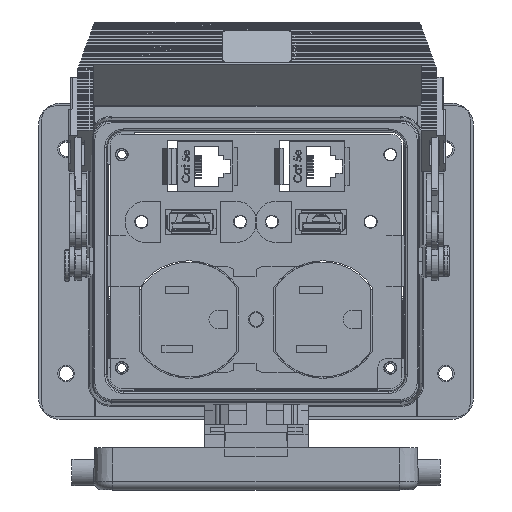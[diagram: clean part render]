
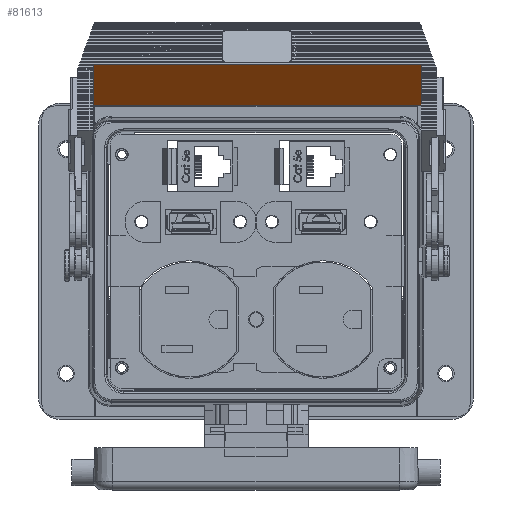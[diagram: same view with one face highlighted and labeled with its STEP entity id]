
A CAD part, top view. The second image highlights one B-rep face of the part: STEP entity #81613.
In plain terms, the highlighted planar face has unit normal (0, -0.699, 0.716).
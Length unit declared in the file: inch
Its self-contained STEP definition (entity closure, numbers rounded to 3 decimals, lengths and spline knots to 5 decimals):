
#8855 = EDGE_CURVE ( 'NONE', #8856, #8857, #53499, .T. ) ;
#8856 = VERTEX_POINT ( 'NONE', #53495 ) ;
#8857 = VERTEX_POINT ( 'NONE', #53494 ) ;
#53494 = CARTESIAN_POINT ( 'NONE',  ( -1.857, 1.77886, 0.36818 ) ) ;
#53495 = CARTESIAN_POINT ( 'NONE',  ( -1.857, 2.24079, 0.81917 ) ) ;
#53496 = DIRECTION ( 'NONE',  ( 0., -0.716, -0.699 ) ) ;
#53497 = VECTOR ( 'NONE', #53496, 39.37008 ) ;
#53498 = CARTESIAN_POINT ( 'NONE',  ( -1.857, 2.38706, 0.96198 ) ) ;
#53499 = LINE ( 'NONE', #53498, #53497 ) ;
#81458 = EDGE_CURVE ( 'NONE', #81475, #81479, #112998, .T. ) ;
#81475 = VERTEX_POINT ( 'NONE', #113061 ) ;
#81479 = VERTEX_POINT ( 'NONE', #113090 ) ;
#81613 = ADVANCED_FACE ( 'NONE', ( #113520 ), #113556, .F. ) ;
#81615 = EDGE_LOOP ( 'NONE', ( #81618, #81622, #81627, #81630 ) ) ;
#81618 = ORIENTED_EDGE ( 'NONE', *, *, #81458, .F. ) ;
#81622 = ORIENTED_EDGE ( 'NONE', *, *, #81623, .T. ) ;
#81623 = EDGE_CURVE ( 'NONE', #81475, #8856, #113542, .T. ) ;
#81627 = ORIENTED_EDGE ( 'NONE', *, *, #8855, .T. ) ;
#81630 = ORIENTED_EDGE ( 'NONE', *, *, #81948, .T. ) ;
#81948 = EDGE_CURVE ( 'NONE', #8857, #81479, #114473, .T. ) ;
#112998 = LINE ( 'NONE', #113045, #113044 ) ;
#113043 = DIRECTION ( 'NONE',  ( 0., -0.716, -0.699 ) ) ;
#113044 = VECTOR ( 'NONE', #113043, 39.37008 ) ;
#113045 = CARTESIAN_POINT ( 'NONE',  ( 1.883, 2.38706, 0.96198 ) ) ;
#113061 = CARTESIAN_POINT ( 'NONE',  ( 1.883, 2.24079, 0.81917 ) ) ;
#113090 = CARTESIAN_POINT ( 'NONE',  ( 1.883, 1.77886, 0.36818 ) ) ;
#113520 = FACE_OUTER_BOUND ( 'NONE', #81615, .T. ) ;
#113539 = DIRECTION ( 'NONE',  ( -1., 0., 0. ) ) ;
#113540 = VECTOR ( 'NONE', #113539, 39.37008 ) ;
#113541 = CARTESIAN_POINT ( 'NONE',  ( 1.883, 2.24079, 0.81917 ) ) ;
#113542 = LINE ( 'NONE', #113541, #113540 ) ;
#113552 = DIRECTION ( 'NONE',  ( 0., 0.716, 0.699 ) ) ;
#113553 = DIRECTION ( 'NONE',  ( 0., 0.699, -0.716 ) ) ;
#113554 = CARTESIAN_POINT ( 'NONE',  ( 1.883, 2.38706, 0.96198 ) ) ;
#113555 = AXIS2_PLACEMENT_3D ( 'NONE', #113554, #113553, #113552 ) ;
#113556 = PLANE ( 'NONE',  #113555 ) ;
#114470 = DIRECTION ( 'NONE',  ( 1., 0., 0. ) ) ;
#114471 = VECTOR ( 'NONE', #114470, 39.37008 ) ;
#114472 = CARTESIAN_POINT ( 'NONE',  ( 1.883, 1.77886, 0.36818 ) ) ;
#114473 = LINE ( 'NONE', #114472, #114471 ) ;
